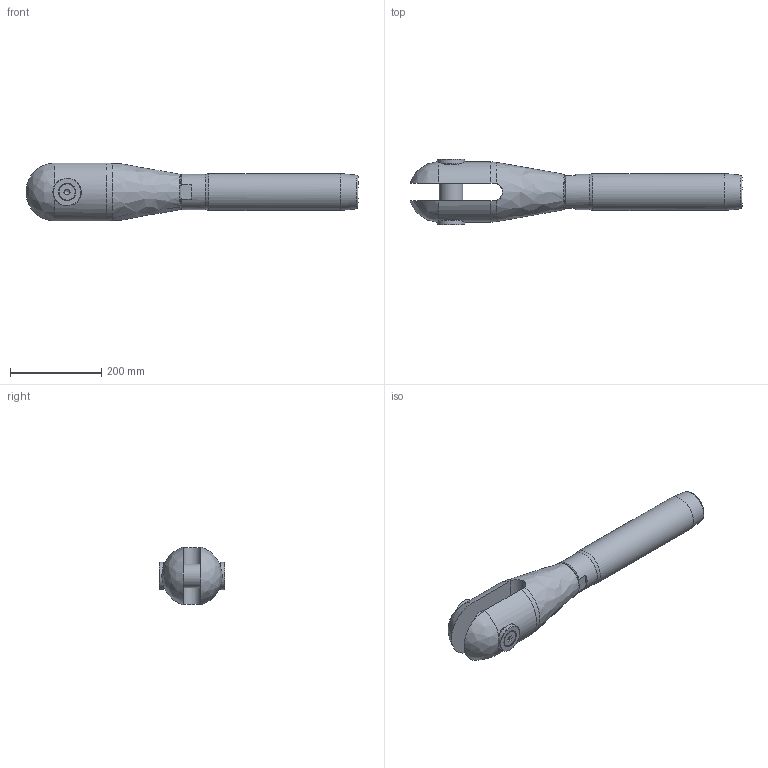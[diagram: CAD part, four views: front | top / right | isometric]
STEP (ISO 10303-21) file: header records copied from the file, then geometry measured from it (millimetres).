
FILE_DESCRIPTION(/* description */ (''),/* implementation_level */ '2;1');
FILE_NAME(/* name */ 'MAC-R 36_S355',/* time_stamp */ '2023-05-23T17:52:56+02:00',/* author */ (''),/* organization */ (''),/* preprocessor_version */ 'ST-DEVELOPER v16.5',/* originating_system */ 'Rhino 7.22',/* authorisation */ '');
FILE_SCHEMA (('CONFIG_CONTROL_DESIGN'));
Length unit declared in the file: millimetre
Products named in the file (1): Document
Bounding box: 726.43 x 143.45 x 126.11 mm (x, y, z)
Volume: 4704376.3 mm3; surface area: 372227 mm2
Topology: 7 solids, 7 shells, 88 faces, 245 edges, 170 vertices
Faces by surface type: plane 36, bspline 28, cylinder 24
Full cylindrical faces by diameter (mm): 17.294 x2, 20 x2, 21 x2, 35.4 x2, 52 x1, 54 x2, 60 x2, 60.752 x1, 64 x1, 77 x1, 81 x1
Entity records: 3554 total; most frequent: CARTESIAN_POINT 1995, ORIENTED_EDGE 480, EDGE_CURVE 240, VERTEX_POINT 170, EDGE_LOOP 100, B_SPLINE_CURVE_WITH_KNOTS 97, ADVANCED_FACE 88, FACE_OUTER_BOUND 88
